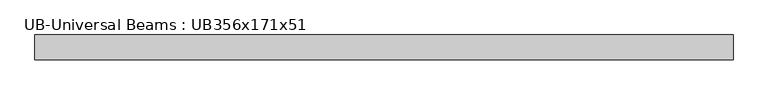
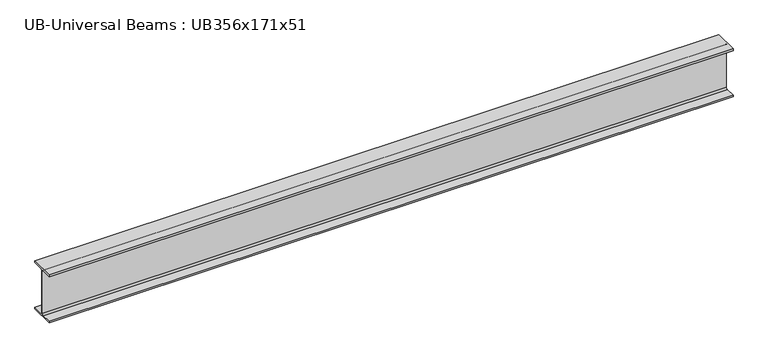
"""IFC4 building model written with IfcOpenShell, lengths in millimetres: beam geometry, UB-Universal Beams : UB356x171x51."""

from ifc_helpers import new_model, si_unit, point, frame, frame_2d, origin, place, context, project, spatial, polyline, circle_curve, trimmed, segment, composite_curve, outline, extrude, source, transform, mapped, element, save


def ub_universal_beams_ub356x171x51_0fe81250(model_context):
    return source(origin(), model_context, "Body", "SweptSolid", [
        extrude(outline(composite_curve([segment(polyline([(85.75, -166.0), (85.75, -177.5), (-85.75, -177.5), (-85.75, -166.0), (-13.9, -166.0)]), True, "CONTINUOUS"), segment(trimmed(circle_curve(frame_2d((-13.9, -155.8)), 10.2), [point((-13.9, -166.0))], [point((-3.7, -155.8))], True, "CARTESIAN"), True, "CONTINUOUS"), segment(polyline([(-3.7, -155.8), (-3.7, 155.8)]), True, "CONTINUOUS"), segment(trimmed(circle_curve(frame_2d((-13.9, 155.8)), 10.2), [point((-3.7, 155.8))], [point((-13.9, 166.0))], True, "CARTESIAN"), True, "CONTINUOUS"), segment(polyline([(-13.9, 166.0), (-85.75, 166.0), (-85.75, 177.5), (85.75, 177.5), (85.75, 166.0), (13.9, 166.0)]), True, "CONTINUOUS"), segment(trimmed(circle_curve(frame_2d((13.9, 155.8)), 10.2), [point((13.9, 166.0))], [point((3.7, 155.8))], True, "CARTESIAN"), True, "CONTINUOUS"), segment(polyline([(3.7, 155.8), (3.7, -155.8)]), True, "CONTINUOUS"), segment(trimmed(circle_curve(frame_2d((13.9, -155.8)), 10.2), [point((3.7, -155.8))], [point((13.9, -166.0))], True, "CARTESIAN"), True, "CONTINUOUS"), segment(polyline([(13.9, -166.0), (85.75, -166.0)]), True, "CONTINUOUS")], self_intersect=False)), frame((-2371.5, 0.0, 0.0), z_axis=(1.0, 0.0, 0.0), x_axis=(0.0, 1.0, 0.0)), (0.0, 0.0, 1.0), 4787.3),
    ])


if __name__ == "__main__":
    model = new_model("IFC4")
    model_context = context("Model", 3, world=origin())
    ifc_project = project(units=[si_unit("LENGTHUNIT", "METRE", prefix="MILLI")], contexts=[model_context])
    site = spatial("IfcSite", under=ifc_project)
    building = spatial("IfcBuilding", under=site)
    placement = place(None, origin())
    ub_universal_beams_ub356x171x51_shape = ub_universal_beams_ub356x171x51_0fe81250(model_context)
    element("IfcBeam", 1, ObjectType="UB-Universal Beams : UB356x171x51", at=placement, inside=building, context=model_context, shape_type="MappedRepresentation", body=[
        mapped(ub_universal_beams_ub356x171x51_shape, transform((0.0, 0.0, 0.0), x_axis=(1.0, 0.0, 0.0), y_axis=(0.0, 1.0, 0.0), z_axis=(0.0, 0.0, 1.0))),
    ])
    save(model, "model.ifc")
